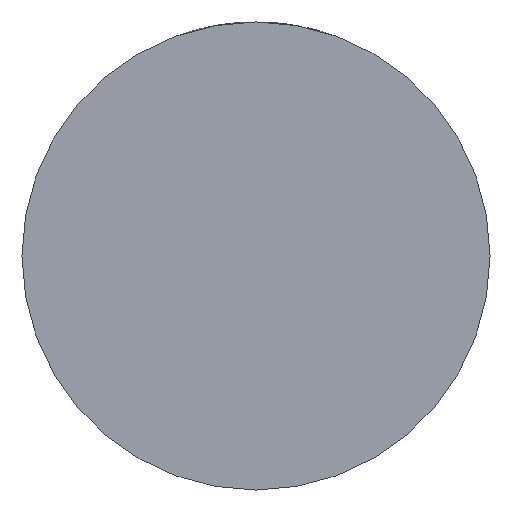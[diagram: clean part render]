
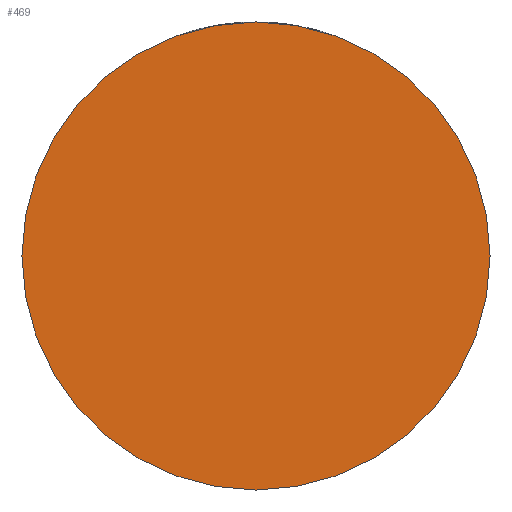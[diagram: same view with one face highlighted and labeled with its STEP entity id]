
A CAD part, front view. The second image highlights one B-rep face of the part: STEP entity #469.
In plain terms, the highlighted planar face has unit normal (0, -1, 0).
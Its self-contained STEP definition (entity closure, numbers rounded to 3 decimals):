
#211 = EDGE_LOOP ( 'NONE', ( #4239, #1018 ) ) ;
#303 = EDGE_CURVE ( 'NONE', #2896, #1727, #3227, .T. ) ;
#465 = AXIS2_PLACEMENT_3D ( 'NONE', #1987, #1926, #2572 ) ;
#469 = ADVANCED_FACE ( 'NONE', ( #2926 ), #571, .T. ) ;
#514 = CARTESIAN_POINT ( 'NONE',  ( -32.5, -26., 0. ) ) ;
#571 = PLANE ( 'NONE',  #465 ) ;
#604 = DIRECTION ( 'NONE',  ( 0., -1., 0. ) ) ;
#902 = CARTESIAN_POINT ( 'NONE',  ( 32.5, -26., 0. ) ) ;
#1018 = ORIENTED_EDGE ( 'NONE', *, *, #303, .T. ) ;
#1300 = AXIS2_PLACEMENT_3D ( 'NONE', #3889, #3509, #1858 ) ;
#1727 = VERTEX_POINT ( 'NONE', #514 ) ;
#1858 = DIRECTION ( 'NONE',  ( 1., 0., 0. ) ) ;
#1926 = DIRECTION ( 'NONE',  ( 0., -1., 0. ) ) ;
#1956 = DIRECTION ( 'NONE',  ( 1., 0., 0. ) ) ;
#1987 = CARTESIAN_POINT ( 'NONE',  ( 0., -26., 0. ) ) ;
#2272 = AXIS2_PLACEMENT_3D ( 'NONE', #2688, #604, #1956 ) ;
#2350 = EDGE_CURVE ( 'NONE', #1727, #2896, #4271, .T. ) ;
#2572 = DIRECTION ( 'NONE',  ( 1., 0., 0. ) ) ;
#2688 = CARTESIAN_POINT ( 'NONE',  ( 0., -26., 0. ) ) ;
#2896 = VERTEX_POINT ( 'NONE', #902 ) ;
#2926 = FACE_OUTER_BOUND ( 'NONE', #211, .T. ) ;
#3227 = CIRCLE ( 'NONE', #1300, 32.5 ) ;
#3509 = DIRECTION ( 'NONE',  ( 0., -1., 0. ) ) ;
#3889 = CARTESIAN_POINT ( 'NONE',  ( 0., -26., 0. ) ) ;
#4239 = ORIENTED_EDGE ( 'NONE', *, *, #2350, .T. ) ;
#4271 = CIRCLE ( 'NONE', #2272, 32.5 ) ;
